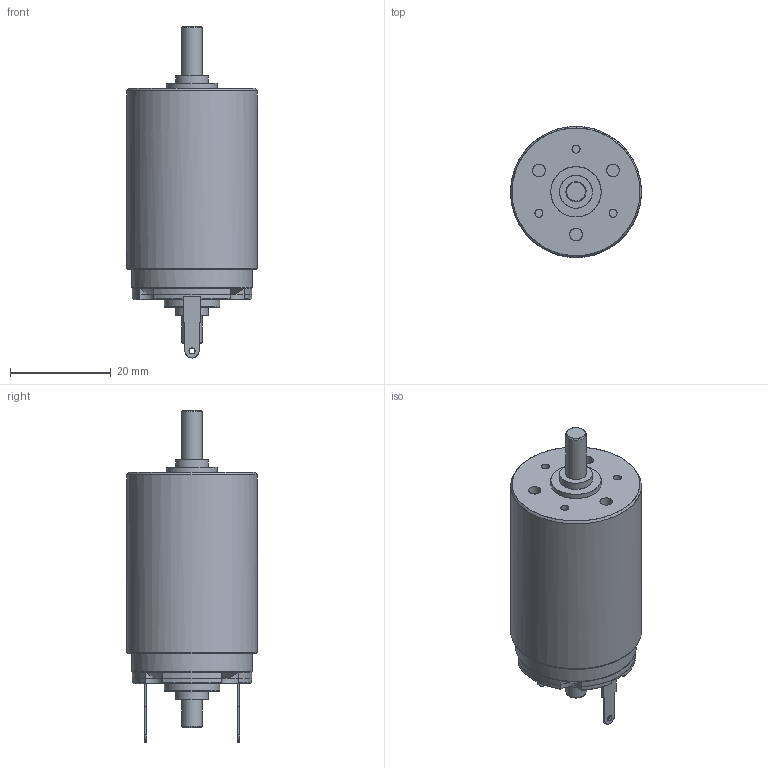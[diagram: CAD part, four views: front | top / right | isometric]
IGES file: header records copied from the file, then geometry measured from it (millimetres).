
Global section: file name: R:\a_public\Organisationsentwicklung\Aufgaben\CAD_Modelle_Vertrieb\Motor\2642.CXR\2642.CXR.igs; native system: NX V7.5; preprocessor: SIEMENS PLM Software NX 7.5; author: DR. FRITZ FAULHABER GmbH & Co. KG; organization: DR. FRITZ FAULHABER GmbH & Co. KG; date: 20121106.133147; units: millimetre
Bounding box: 26 x 25.98 x 66 mm (x, y, z)
Surface area: 5261.3 mm2 (no closed solid volume)
Topology: 0 solids, 0 shells, 114 faces, 900 edges, 855 vertices
Faces by surface type: bspline 114
